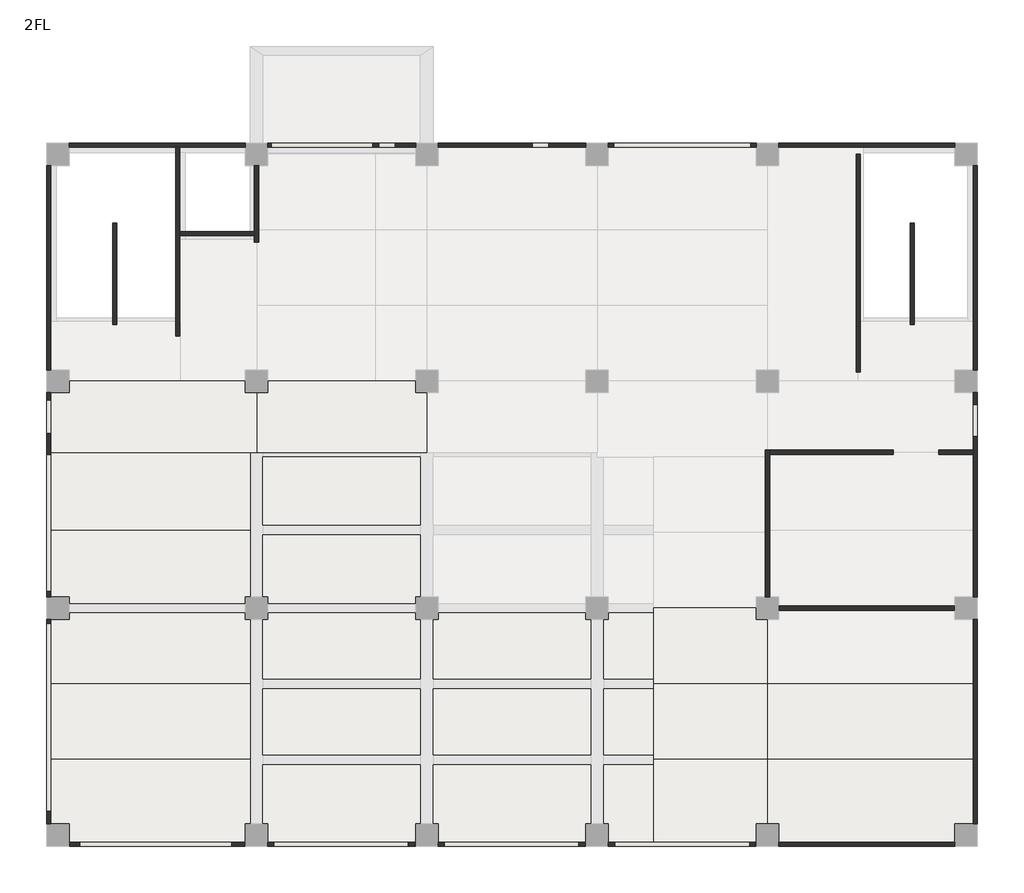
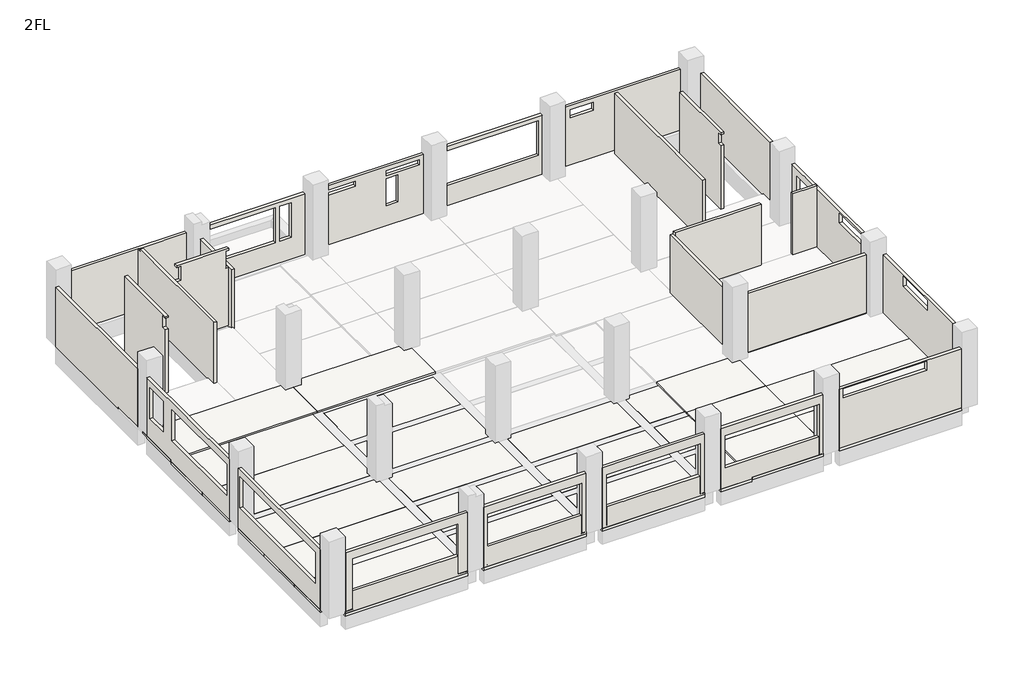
# One storey, part 1 of 4: 26 walls, 23 slabs.
"""IFC4 building model written with IfcOpenShell, lengths in millimetres."""

from ifc_helpers import new_model, si_unit, frame, origin, place, context, project, spatial, polyline, outline, extrude, faceted_brep, element, save

model = new_model("IFC4")

# Units and contexts
model_context = context("Model", 3, world=origin())
ifc_project = project(units=[si_unit("LENGTHUNIT", "METRE", prefix="MILLI")], contexts=[model_context])

# Site, building, storey
site = spatial("IfcSite", under=ifc_project)
building = spatial("IfcBuilding", under=site)
storey = spatial("IfcBuildingStorey", under=building, Name="2FL", Elevation=4100.0)

# Slabs
placement = place(None, origin())
element("IfcSlab", 1, ObjectType="S1", at=placement, inside=storey, context=model_context, shape_type="Brep", body=[
    faceted_brep([(25000.0, 2664.0, 3940.0), (32400.0, 2664.0, 3940.0), (32400.0, 400.0, 3940.0), (32050.0, 400.0, 3940.0), (31600.0, 400.0, 3940.0), (31600.0, -50.0, 3940.0), (31600.0, -400.0, 3940.0), (25400.0, -400.0, 3940.0), (25400.0, -50.0, 3940.0), (25400.0, 400.0, 3940.0), (25000.0, 400.0, 3940.0), (25000.0, 2485.0, 3940.0), (32400.0, 2664.0, 4090.0), (25000.0, 2664.0, 4090.0), (25000.0, 400.0, 4090.0), (25400.0, 400.0, 4090.0), (25400.0, -250.0, 4090.0), (25400.0, -400.0, 4090.0), (31600.0, -400.0, 4090.0), (31600.0, -250.0, 4090.0), (31600.0, 400.0, 4090.0), (32250.0, 400.0, 4090.0), (32400.0, 400.0, 4090.0), (25400.0, -400.0, 4000.0), (31600.0, -400.0, 4000.0), (32400.0, 400.0, 4000.0), (25400.0, 400.0, 4000.0), (31600.0, 400.0, 4000.0)], [[[0, 1, 2, 3, 4, 5, 6, 7, 8, 9, 10, 11]], [[12, 13, 14, 15, 16, 17, 18, 19, 20, 21, 22]], [[17, 23, 7, 6, 24, 18]], [[13, 0, 11, 10, 14]], [[1, 0, 13, 12]], [[1, 12, 22, 25, 2]], [[9, 8, 7, 23, 17, 16, 15, 26]], [[10, 9, 26, 15, 14]], [[20, 19, 18, 24, 6, 5, 4, 27]], [[20, 27, 4, 3, 2, 25, 22, 21]]]),
])
element("IfcSlab", 2, ObjectType="S1", at=placement, inside=storey, context=model_context, shape_type="Brep", body=[
    faceted_brep([(32400.0, 5328.0, 3940.0), (32400.0, 2664.0, 3940.0), (25000.0, 2664.0, 3940.0), (25000.0, 2835.0, 3940.0), (25000.0, 5155.0, 3940.0), (25000.0, 5328.0, 3940.0), (32400.0, 5328.0, 4090.0), (25000.0, 5328.0, 4090.0), (25000.0, 2667.0, 4090.0), (25000.0, 2664.0, 4090.0), (32400.0, 2664.0, 4090.0)], [[[0, 1, 2, 3, 4, 5]], [[6, 7, 8, 9, 10]], [[1, 0, 6, 10]], [[2, 1, 10, 9]], [[5, 4, 3, 2, 9, 8, 7]], [[0, 5, 7, 6]]]),
])
element("IfcSlab", 3, ObjectType="S1", at=placement, inside=storey, context=model_context, shape_type="Brep", body=[
    faceted_brep([(20998.0, -400.0, 3850.0), (19400.0, -400.0, 3850.0), (19400.0, -50.0, 3850.0), (19400.0, 400.0, 3850.0), (19225.0, 400.0, 3850.0), (19225.0, 2485.0, 3850.0), (20998.0, 2485.0, 3850.0), (20998.0, -50.0, 3850.0), (19400.0, -400.0, 4000.0), (20998.0, -400.0, 4000.0), (20998.0, -250.0, 4000.0), (20998.0, 2485.0, 4000.0), (19225.0, 2485.0, 4000.0), (19225.0, 400.0, 4000.0), (19400.0, 400.0, 4000.0), (19400.0, -250.0, 4000.0), (20998.0, -400.0, 3940.0), (20998.0, 2485.0, 3940.0)], [[[0, 1, 2, 3, 4, 5, 6, 7]], [[8, 9, 10, 11, 12, 13, 14, 15]], [[0, 16, 9, 8, 1]], [[9, 16, 0, 7, 6, 17, 11, 10]], [[14, 3, 2, 1, 8, 15]], [[3, 14, 13, 4]], [[4, 13, 12, 5]], [[6, 5, 12, 11, 17]]]),
])
element("IfcSlab", 4, ObjectType="S1", at=placement, inside=storey, context=model_context, shape_type="Brep", body=[
    faceted_brep([(24600.0, -400.0, 3940.0), (20998.0, -400.0, 3940.0), (20998.0, -50.0, 3940.0), (20998.0, 2485.0, 3940.0), (25000.0, 2485.0, 3940.0), (25000.0, 400.0, 3940.0), (24600.0, 400.0, 3940.0), (24600.0, -50.0, 3940.0), (20998.0, 2667.0, 4090.0), (20998.0, -250.0, 4090.0), (20998.0, -400.0, 4090.0), (24600.0, -400.0, 4090.0), (24600.0, -250.0, 4090.0), (24600.0, 400.0, 4090.0), (25000.0, 400.0, 4090.0), (25000.0, 2664.0, 4090.0), (25000.0, 2667.0, 4090.0), (20998.0, -400.0, 4000.0), (24600.0, -400.0, 4000.0), (20998.0, 2667.0, 4000.0), (20998.0, 2485.0, 4000.0), (25000.0, 2667.0, 4000.0), (25000.0, 2485.0, 4000.0), (24600.0, 400.0, 4000.0), (24775.0, 2485.0, 4000.0)], [[[0, 1, 2, 3, 4, 5, 6, 7]], [[8, 9, 10, 11, 12, 13, 14, 15, 16]], [[10, 17, 1, 0, 18, 11]], [[10, 9, 8, 19, 20, 3, 2, 1, 17]], [[8, 16, 21, 19]], [[16, 15, 14, 5, 4, 22, 21]], [[0, 7, 6, 23, 13, 12, 11, 18]], [[6, 5, 14, 13, 23]], [[20, 24, 22, 4, 3]], [[22, 24, 20, 19, 21]]]),
])
element("IfcSlab", 5, ObjectType="S1", at=placement, inside=storey, context=model_context, shape_type="Brep", body=[
    faceted_brep([(20998.0, 2835.0, 3850.0), (19225.0, 2835.0, 3850.0), (19225.0, 5155.0, 3850.0), (20998.0, 5155.0, 3850.0), (19225.0, 2835.0, 4000.0), (20998.0, 2835.0, 4000.0), (20998.0, 5155.0, 4000.0), (19225.0, 5155.0, 4000.0), (20998.0, 2835.0, 3940.0), (20998.0, 5155.0, 3940.0)], [[[0, 1, 2, 3]], [[4, 5, 6, 7]], [[5, 8, 0, 3, 9, 6]], [[1, 4, 7, 2]], [[1, 0, 8, 5, 4]], [[3, 2, 7, 6, 9]]]),
])
element("IfcSlab", 6, ObjectType="S1", at=placement, inside=storey, context=model_context, shape_type="Brep", body=[
    faceted_brep([(25000.0, 2835.0, 3940.0), (20998.0, 2835.0, 3940.0), (20998.0, 5155.0, 3940.0), (25000.0, 5155.0, 3940.0), (25000.0, 2667.0, 4090.0), (25000.0, 5328.0, 4090.0), (25000.0, 5333.0, 4090.0), (20998.0, 5333.0, 4090.0), (20998.0, 2667.0, 4090.0), (25000.0, 2667.0, 4000.0), (25000.0, 2835.0, 4000.0), (25000.0, 5155.0, 4000.0), (25000.0, 5333.0, 4000.0), (20998.0, 2667.0, 4000.0), (20998.0, 5333.0, 4000.0), (20998.0, 5155.0, 4000.0), (20998.0, 2835.0, 4000.0), (24775.0, 2835.0, 4000.0), (24775.0, 5155.0, 4000.0)], [[[0, 1, 2, 3]], [[4, 5, 6, 7, 8]], [[6, 5, 4, 9, 10, 0, 3, 11, 12]], [[4, 8, 13, 9]], [[8, 7, 14, 15, 2, 1, 16, 13]], [[7, 6, 12, 14]], [[1, 0, 10, 17, 16]], [[15, 18, 11, 3, 2]], [[10, 9, 13, 16, 17]], [[11, 18, 15, 14, 12]]]),
])
element("IfcSlab", 7, ObjectType="S1", at=placement, inside=storey, context=model_context, shape_type="Brep", body=[
    faceted_brep([(19400.0, 7600.0, 3850.0), (19400.0, 7825.0, 3850.0), (20998.0, 7825.0, 3850.0), (20998.0, 5505.0, 3850.0), (19225.0, 5505.0, 3850.0), (19225.0, 7600.0, 3850.0), (19400.0, 7825.0, 4000.0), (19400.0, 7600.0, 4000.0), (19225.0, 7600.0, 4000.0), (19225.0, 5505.0, 4000.0), (20998.0, 5505.0, 4000.0), (20998.0, 7825.0, 4000.0), (20998.0, 7825.0, 3940.0), (20998.0, 5505.0, 3940.0)], [[[0, 1, 2, 3, 4, 5]], [[6, 7, 8, 9, 10, 11]], [[2, 12, 11, 10, 13, 3]], [[0, 7, 6, 1]], [[7, 0, 5, 8]], [[2, 1, 6, 11, 12]], [[8, 5, 4, 9]], [[4, 3, 13, 10, 9]]]),
])
element("IfcSlab", 8, ObjectType="S1", at=placement, inside=storey, context=model_context, shape_type="Brep", body=[
    faceted_brep([(20998.0, 8000.0, 3940.0), (24600.0, 8000.0, 3940.0), (24600.0, 7825.0, 3940.0), (24600.0, 7600.0, 3940.0), (24775.0, 7600.0, 3940.0), (25000.0, 7600.0, 3940.0), (25000.0, 5505.0, 3940.0), (20998.0, 5505.0, 3940.0), (20998.0, 7825.0, 3940.0), (20998.0, 5333.0, 4090.0), (25000.0, 5333.0, 4090.0), (25000.0, 7600.0, 4090.0), (24600.0, 7600.0, 4090.0), (24600.0, 8000.0, 4090.0), (20998.0, 8000.0, 4090.0), (25000.0, 5333.0, 4000.0), (25000.0, 5505.0, 4000.0), (20998.0, 5333.0, 4000.0), (20998.0, 5505.0, 4000.0), (24600.0, 7600.0, 4000.0), (24775.0, 5505.0, 4000.0)], [[[0, 1, 2, 3, 4, 5, 6, 7, 8]], [[9, 10, 11, 12, 13, 14]], [[11, 10, 15, 16, 6, 5]], [[10, 9, 17, 15]], [[9, 14, 0, 8, 7, 18, 17]], [[0, 14, 13, 1]], [[5, 4, 3, 19, 12, 11]], [[3, 2, 1, 13, 12, 19]], [[16, 20, 18, 7, 6]], [[18, 20, 16, 15, 17]]]),
])
element("IfcSlab", 9, ObjectType="S2", at=placement, inside=storey, context=model_context, shape_type="Brep", body=[
    faceted_brep([(400.0, -400.0, 3850.0), (400.0, -50.0, 3850.0), (400.0, 400.0, 3850.0), (-50.0, 400.0, 3850.0), (-400.0, 400.0, 3850.0), (-400.0, 2664.0, 3850.0), (6775.0, 2664.0, 3850.0), (6775.0, 2485.0, 3850.0), (6775.0, 400.0, 3850.0), (6600.0, 400.0, 3850.0), (6600.0, -50.0, 3850.0), (6600.0, -400.0, 3850.0), (400.0, 400.0, 4000.0), (400.0, -250.0, 4000.0), (400.0, -400.0, 4000.0), (6600.0, -400.0, 4000.0), (6600.0, -250.0, 4000.0), (6600.0, 400.0, 4000.0), (6775.0, 400.0, 4000.0), (6775.0, 2664.0, 4000.0), (-400.0, 2664.0, 4000.0), (-400.0, 400.0, 4000.0), (-250.0, 400.0, 4000.0)], [[[0, 1, 2, 3, 4, 5, 6, 7, 8, 9, 10, 11]], [[12, 13, 14, 15, 16, 17, 18, 19, 20, 21, 22]], [[14, 0, 11, 15]], [[20, 5, 4, 21]], [[5, 20, 19, 6]], [[12, 2, 1, 0, 14, 13]], [[2, 12, 22, 21, 4, 3]], [[9, 17, 16, 15, 11, 10]], [[17, 9, 8, 18]], [[8, 7, 6, 19, 18]]]),
])
element("IfcSlab", 10, ObjectType="S2", at=placement, inside=storey, context=model_context, shape_type="Brep", body=[
    faceted_brep([(-400.0, 2664.0, 3850.0), (-400.0, 5328.0, 3850.0), (6775.0, 5328.0, 3850.0), (6775.0, 5155.0, 3850.0), (6775.0, 2835.0, 3850.0), (6775.0, 2664.0, 3850.0), (-400.0, 5328.0, 4000.0), (-400.0, 2664.0, 4000.0), (6775.0, 2664.0, 4000.0), (6775.0, 5328.0, 4000.0)], [[[0, 1, 2, 3, 4, 5]], [[6, 7, 8, 9]], [[7, 0, 5, 8]], [[1, 0, 7, 6]], [[1, 6, 9, 2]], [[5, 4, 3, 2, 9, 8]]]),
])
element("IfcSlab", 11, ObjectType="S2", at=placement, inside=storey, context=model_context, shape_type="Brep", body=[
    faceted_brep([(-400.0, 7600.0, 3850.0), (-50.0, 7600.0, 3850.0), (400.0, 7600.0, 3850.0), (400.0, 7825.0, 3850.0), (6600.0, 7825.0, 3850.0), (6600.0, 7600.0, 3850.0), (6775.0, 7600.0, 3850.0), (6775.0, 5505.0, 3850.0), (6775.0, 5328.0, 3850.0), (-400.0, 5328.0, 3850.0), (400.0, 7600.0, 4000.0), (-250.0, 7600.0, 4000.0), (-400.0, 7600.0, 4000.0), (-400.0, 5328.0, 4000.0), (6775.0, 5328.0, 4000.0), (6775.0, 7600.0, 4000.0), (6600.0, 7600.0, 4000.0), (6600.0, 7825.0, 4000.0), (400.0, 7825.0, 4000.0)], [[[0, 1, 2, 3, 4, 5, 6, 7, 8, 9]], [[10, 11, 12, 13, 14, 15, 16, 17, 18]], [[13, 9, 8, 14]], [[9, 13, 12, 0]], [[2, 10, 18, 3]], [[10, 2, 1, 0, 12, 11]], [[5, 16, 15, 6]], [[16, 5, 4, 17]], [[4, 3, 18, 17]], [[8, 7, 6, 15, 14]]]),
])
element("IfcSlab", 12, ObjectType="S2", at=placement, inside=storey, context=model_context, shape_type="Brep", body=[
    faceted_brep([(7400.0, -400.0, 3850.0), (7400.0, -50.0, 3850.0), (7400.0, 400.0, 3850.0), (7225.0, 400.0, 3850.0), (7225.0, 2485.0, 3850.0), (12775.0, 2485.0, 3850.0), (12775.0, 400.0, 3850.0), (12600.0, 400.0, 3850.0), (12600.0, -50.0, 3850.0), (12600.0, -400.0, 3850.0), (7400.0, 400.0, 4000.0), (7400.0, -400.0, 4000.0), (12600.0, -400.0, 4000.0), (12600.0, 400.0, 4000.0), (12775.0, 400.0, 4000.0), (12775.0, 2485.0, 4000.0), (7225.0, 2485.0, 4000.0), (7225.0, 400.0, 4000.0)], [[[0, 1, 2, 3, 4, 5, 6, 7, 8, 9]], [[10, 11, 12, 13, 14, 15, 16, 17]], [[11, 0, 9, 12]], [[10, 2, 1, 0, 11]], [[2, 10, 17, 3]], [[7, 13, 12, 9, 8]], [[13, 7, 6, 14]], [[3, 17, 16, 4]], [[14, 6, 5, 15]], [[5, 4, 16, 15]]]),
])
element("IfcSlab", 13, ObjectType="S2", at=placement, inside=storey, context=model_context, shape_type="SweptSolid", body=[
    extrude(outline(polyline([(12775.0, 2835.0), (7225.0, 2835.0), (7225.0, 5155.0), (12775.0, 5155.0), (12775.0, 2835.0)])), frame((0.0, 0.0, 3850.0), z_axis=(0.0, 0.0, 1.0), x_axis=(1.0, 0.0, 0.0)), (0.0, 0.0, 1.0), 150.0),
])
element("IfcSlab", 14, ObjectType="S2", at=placement, inside=storey, context=model_context, shape_type="SweptSolid", body=[
    extrude(outline(polyline([(7400.0, 7600.0), (7400.0, 7825.0), (12600.0, 7825.0), (12600.0, 7600.0), (12775.0, 7600.0), (12775.0, 5505.0), (7225.0, 5505.0), (7225.0, 7600.0), (7400.0, 7600.0)])), frame((0.0, 0.0, 3850.0), z_axis=(0.0, 0.0, 1.0), x_axis=(1.0, 0.0, 0.0)), (0.0, 0.0, 1.0), 150.0),
])
element("IfcSlab", 15, ObjectType="S2", at=placement, inside=storey, context=model_context, shape_type="Brep", body=[
    faceted_brep([(13400.0, -400.0, 3850.0), (13400.0, -50.0, 3850.0), (13400.0, 400.0, 3850.0), (13225.0, 400.0, 3850.0), (13225.0, 2485.0, 3850.0), (18775.0, 2485.0, 3850.0), (18775.0, 400.0, 3850.0), (18600.0, 400.0, 3850.0), (18600.0, -50.0, 3850.0), (18600.0, -400.0, 3850.0), (13400.0, 400.0, 4000.0), (13400.0, -250.0, 4000.0), (13400.0, -400.0, 4000.0), (18600.0, -400.0, 4000.0), (18600.0, -250.0, 4000.0), (18600.0, 400.0, 4000.0), (18775.0, 400.0, 4000.0), (18775.0, 2485.0, 4000.0), (13225.0, 2485.0, 4000.0), (13225.0, 400.0, 4000.0)], [[[0, 1, 2, 3, 4, 5, 6, 7, 8, 9]], [[10, 11, 12, 13, 14, 15, 16, 17, 18, 19]], [[12, 0, 9, 13]], [[10, 2, 1, 0, 12, 11]], [[2, 10, 19, 3]], [[7, 15, 14, 13, 9, 8]], [[15, 7, 6, 16]], [[3, 19, 18, 4]], [[16, 6, 5, 17]], [[5, 4, 18, 17]]]),
])
element("IfcSlab", 16, ObjectType="S2", at=placement, inside=storey, context=model_context, shape_type="SweptSolid", body=[
    extrude(outline(polyline([(18775.0, 2835.0), (13225.0, 2835.0), (13225.0, 5155.0), (18775.0, 5155.0), (18775.0, 2835.0)])), frame((0.0, 0.0, 3850.0), z_axis=(0.0, 0.0, 1.0), x_axis=(1.0, 0.0, 0.0)), (0.0, 0.0, 1.0), 150.0),
])
element("IfcSlab", 17, ObjectType="S2", at=placement, inside=storey, context=model_context, shape_type="SweptSolid", body=[
    extrude(outline(polyline([(13400.0, 7600.0), (13400.0, 7825.0), (18600.0, 7825.0), (18600.0, 7600.0), (18775.0, 7600.0), (18775.0, 5505.0), (13225.0, 5505.0), (13225.0, 7600.0), (13400.0, 7600.0)])), frame((0.0, 0.0, 3850.0), z_axis=(0.0, 0.0, 1.0), x_axis=(1.0, 0.0, 0.0)), (0.0, 0.0, 1.0), 150.0),
])
element("IfcSlab", 18, ObjectType="S2", at=placement, inside=storey, context=model_context, shape_type="Brep", body=[
    faceted_brep([(7000.0, 13496.0, 3940.0), (6775.0, 13496.0, 3940.0), (-50.0, 13496.0, 3940.0), (-400.0, 13496.0, 3940.0), (-400.0, 15600.0, 3940.0), (-50.0, 15600.0, 3940.0), (400.0, 15600.0, 3940.0), (400.0, 16000.0, 3940.0), (4319.0, 16000.0, 3940.0), (6600.0, 16000.0, 3940.0), (6600.0, 15825.0, 3940.0), (6600.0, 15600.0, 3940.0), (6775.0, 15600.0, 3940.0), (7000.0, 15600.0, 3940.0), (-400.0, 13496.0, 4090.0), (-250.0, 13496.0, 4090.0), (7000.0, 13496.0, 4090.0), (7000.0, 15600.0, 4090.0), (6600.0, 15600.0, 4090.0), (6600.0, 16000.0, 4090.0), (4319.0, 16000.0, 4090.0), (-400.0, 16000.0, 4090.0), (-400.0, 15600.0, 4090.0), (7000.0, 13496.0, 4000.0), (7000.0, 15600.0, 4000.0), (-400.0, 13496.0, 4000.0), (-400.0, 16000.0, 4000.0), (-400.0, 15600.0, 4000.0), (400.0, 16000.0, 4000.0), (400.0, 15600.0, 4000.0), (6600.0, 15600.0, 4000.0)], [[[0, 1, 2, 3, 4, 5, 6, 7, 8, 9, 10, 11, 12, 13]], [[14, 15, 16, 17, 18, 19, 20, 21, 22]], [[16, 23, 0, 13, 24, 17]], [[3, 2, 1, 0, 23, 16, 15, 14, 25]], [[14, 22, 21, 26, 27, 4, 3, 25]], [[7, 28, 26, 21, 20, 19, 9, 8]], [[6, 29, 28, 7]], [[27, 29, 6, 5, 4]], [[29, 27, 26, 28]], [[18, 17, 24, 13, 12, 11, 30]], [[18, 30, 11, 10, 9, 19]]]),
])
element("IfcSlab", 19, ObjectType="S2", at=placement, inside=storey, context=model_context, shape_type="Brep", body=[
    faceted_brep([(7400.0, 15600.0, 3940.0), (7400.0, 16000.0, 3940.0), (11200.0, 16000.0, 3940.0), (12600.0, 16000.0, 3940.0), (12600.0, 15825.0, 3940.0), (12600.0, 15600.0, 3940.0), (12775.0, 15600.0, 3940.0), (12775.0, 13675.0, 3940.0), (7225.0, 13675.0, 3940.0), (7225.0, 15600.0, 3940.0), (7000.0, 13496.0, 4090.0), (13000.0, 13496.0, 4090.0), (13000.0, 15600.0, 4090.0), (12600.0, 15600.0, 4090.0), (12600.0, 16000.0, 4090.0), (11200.0, 16000.0, 4090.0), (7400.0, 16000.0, 4090.0), (7400.0, 15600.0, 4090.0), (7000.0, 15600.0, 4090.0), (13000.0, 13496.0, 4000.0), (13000.0, 15600.0, 4000.0), (7000.0, 13496.0, 4000.0), (7000.0, 15600.0, 4000.0), (7400.0, 16000.0, 4000.0), (12600.0, 16000.0, 4000.0), (7400.0, 15600.0, 4000.0), (7225.0, 15600.0, 4000.0), (12775.0, 15600.0, 4000.0), (12600.0, 15600.0, 4000.0), (12775.0, 13675.0, 4000.0), (7225.0, 13675.0, 4000.0)], [[[0, 1, 2, 3, 4, 5, 6, 7, 8, 9]], [[10, 11, 12, 13, 14, 15, 16, 17, 18]], [[12, 11, 19, 20]], [[11, 10, 21, 19]], [[10, 18, 22, 21]], [[1, 23, 16, 15, 14, 24, 3, 2]], [[1, 0, 25, 17, 16, 23]], [[18, 17, 25, 0, 9, 26, 22]], [[13, 12, 20, 27, 6, 5, 28]], [[5, 4, 3, 24, 14, 13, 28]], [[7, 29, 30, 8]], [[22, 26, 30, 29, 27, 20, 19, 21]], [[27, 29, 7, 6]], [[30, 26, 9, 8]]]),
])
element("IfcSlab", 20, ObjectType="S2", at=placement, inside=storey, context=model_context, shape_type="Brep", body=[
    faceted_brep([(400.0, 8400.0, 3850.0), (-50.0, 8400.0, 3850.0), (-400.0, 8400.0, 3850.0), (-400.0, 10748.0, 3850.0), (6775.0, 10748.0, 3850.0), (6775.0, 10575.0, 3850.0), (6775.0, 8400.0, 3850.0), (6600.0, 8400.0, 3850.0), (6600.0, 8175.0, 3850.0), (400.0, 8175.0, 3850.0), (-400.0, 8400.0, 4000.0), (-250.0, 8400.0, 4000.0), (400.0, 8400.0, 4000.0), (400.0, 8175.0, 4000.0), (6600.0, 8175.0, 4000.0), (6600.0, 8400.0, 4000.0), (6775.0, 8400.0, 4000.0), (6775.0, 10748.0, 4000.0), (-400.0, 10748.0, 4000.0)], [[[0, 1, 2, 3, 4, 5, 6, 7, 8, 9]], [[10, 11, 12, 13, 14, 15, 16, 17, 18]], [[18, 3, 2, 10]], [[3, 18, 17, 4]], [[12, 0, 9, 13]], [[0, 12, 11, 10, 2, 1]], [[7, 15, 14, 8]], [[15, 7, 6, 16]], [[9, 8, 14, 13]], [[6, 5, 4, 17, 16]]]),
])
element("IfcSlab", 21, ObjectType="S2", at=placement, inside=storey, context=model_context, shape_type="Brep", body=[
    faceted_brep([(-400.0, 10748.0, 3850.0), (-400.0, 13496.0, 3850.0), (-50.0, 13496.0, 3850.0), (6775.0, 13496.0, 3850.0), (6775.0, 13325.0, 3850.0), (6775.0, 10925.0, 3850.0), (6775.0, 10748.0, 3850.0), (-400.0, 13496.0, 4000.0), (-400.0, 10748.0, 4000.0), (6775.0, 10748.0, 4000.0), (6775.0, 13496.0, 4000.0), (-250.0, 13496.0, 4000.0), (-400.0, 13496.0, 3940.0), (6775.0, 13496.0, 3940.0)], [[[0, 1, 2, 3, 4, 5, 6]], [[7, 8, 9, 10, 11]], [[8, 0, 6, 9]], [[1, 0, 8, 7, 12]], [[1, 12, 7, 11, 10, 13, 3, 2]], [[6, 5, 4, 3, 13, 10, 9]]]),
])
element("IfcSlab", 22, ObjectType="S2", at=placement, inside=storey, context=model_context, shape_type="SweptSolid", body=[
    extrude(outline(polyline([(12600.0, 8400.0), (12600.0, 8175.0), (7400.0, 8175.0), (7400.0, 8400.0), (7225.0, 8400.0), (7225.0, 10575.0), (12775.0, 10575.0), (12775.0, 8400.0), (12600.0, 8400.0)])), frame((0.0, 0.0, 3850.0), z_axis=(0.0, 0.0, 1.0), x_axis=(1.0, 0.0, 0.0)), (0.0, 0.0, 1.0), 150.0),
])
element("IfcSlab", 23, ObjectType="S2", at=placement, inside=storey, context=model_context, shape_type="SweptSolid", body=[
    extrude(outline(polyline([(7225.0, 13325.0), (12775.0, 13325.0), (12775.0, 10925.0), (7225.0, 10925.0), (7225.0, 13325.0)])), frame((0.0, 0.0, 3850.0), z_axis=(0.0, 0.0, 1.0), x_axis=(1.0, 0.0, 0.0)), (0.0, 0.0, 1.0), 150.0),
])

# Walls
element("IfcWall", 24, ObjectType="EW15", at=placement, inside=storey, context=model_context, shape_type="SweptSolid", body=[
    extrude(outline(polyline([(4090.0, 28374.0), (4000.0, 28374.0), (4000.0, 31600.0), (7250.0, 31600.0), (7250.0, 25400.0), (4090.0, 25400.0), (4090.0, 28374.0)]), holes=[polyline([(7035.0, 26010.0), (7035.0, 27190.0), (6615.0, 27190.0), (6615.0, 26010.0), (7035.0, 26010.0)])]), frame((0.0, 24250.0, 0.0), z_axis=(0.0, 1.0, 0.0), x_axis=(0.0, 0.0, 1.0)), (0.0, 0.0, 1.0), 150.0),
])
element("IfcWall", 25, ObjectType="EW15", at=placement, inside=storey, context=model_context, shape_type="SweptSolid", body=[
    extrude(outline(polyline([(18100.0, 4000.0), (18100.0, 4090.0), (16400.0, 4090.0), (16400.0, 7200.0), (23600.0, 7200.0), (23600.0, 4000.0), (18100.0, 4000.0)])), frame((-400.0, 0.0, 0.0), z_axis=(1.0, 0.0, 0.0), x_axis=(0.0, 1.0, 0.0)), (0.0, 0.0, 1.0), 150.0),
])
element("IfcWall", 26, ObjectType="EW15", at=placement, inside=storey, context=model_context, shape_type="Brep", body=[
    faceted_brep([(32250.0, 400.0, 7200.0), (32250.0, 7600.0, 7200.0), (32250.0, 7600.0, 4090.0), (32250.0, 400.0, 4090.0), (32250.0, 3740.0, 6575.0), (32250.0, 5860.0, 6575.0), (32250.0, 5860.0, 7100.0), (32250.0, 3740.0, 7100.0), (32400.0, 7600.0, 7200.0), (32400.0, 400.0, 7200.0), (32400.0, 400.0, 4090.0), (32400.0, 2664.0, 4090.0), (32400.0, 5328.0, 4090.0), (32400.0, 7600.0, 4090.0), (32400.0, 5860.0, 6575.0), (32400.0, 3740.0, 6575.0), (32400.0, 3740.0, 7100.0), (32400.0, 5860.0, 7100.0)], [[[0, 1, 2, 3], [4, 5, 6, 7]], [[8, 9, 10, 11, 12, 13], [14, 15, 16, 17]], [[9, 0, 3, 10]], [[1, 0, 9, 8]], [[1, 8, 13, 2]], [[2, 13, 12, 11, 10, 3]], [[4, 15, 14, 5]], [[5, 14, 17, 6]], [[15, 4, 7, 16]], [[6, 17, 16, 7]]]),
])
element("IfcWall", 27, ObjectType="EW15", at=placement, inside=storey, context=model_context, shape_type="Brep", body=[
    faceted_brep([(32250.0, 8400.0, 7200.0), (32250.0, 13425.0, 7200.0), (32250.0, 13575.0, 7200.0), (32250.0, 15600.0, 7200.0), (32250.0, 15600.0, 4090.0), (32250.0, 13575.0, 4090.0), (32250.0, 13425.0, 4090.0), (32250.0, 8400.0, 4090.0), (32250.0, 15177.5, 6795.0), (32250.0, 14057.5, 6795.0), (32250.0, 14057.5, 5075.0), (32250.0, 15177.5, 5075.0), (32250.0, 11440.0, 7100.0), (32250.0, 8920.0, 7100.0), (32250.0, 8920.0, 6575.0), (32250.0, 11440.0, 6575.0), (32400.0, 15600.0, 7200.0), (32400.0, 8400.0, 7200.0), (32400.0, 8400.0, 4090.0), (32400.0, 10748.0, 4090.0), (32400.0, 13496.0, 4090.0), (32400.0, 15600.0, 4090.0), (32400.0, 14057.5, 6795.0), (32400.0, 15177.5, 6795.0), (32400.0, 15177.5, 5075.0), (32400.0, 14057.5, 5075.0), (32400.0, 8920.0, 7100.0), (32400.0, 11440.0, 7100.0), (32400.0, 11440.0, 6575.0), (32400.0, 8920.0, 6575.0)], [[[0, 1, 2, 3, 4, 5, 6, 7], [8, 9, 10, 11], [12, 13, 14, 15]], [[16, 17, 18, 19, 20, 21], [22, 23, 24, 25], [26, 27, 28, 29]], [[17, 0, 7, 18]], [[3, 2, 1, 0, 17, 16]], [[3, 16, 21, 4]], [[4, 21, 20, 19, 18, 7, 6, 5]], [[8, 23, 22, 9]], [[10, 25, 24, 11]], [[23, 8, 11, 24]], [[9, 22, 25, 10]], [[12, 27, 26, 13]], [[14, 29, 28, 15]], [[27, 12, 15, 28]], [[13, 26, 29, 14]]]),
])
element("IfcWall", 28, ObjectType="EW15", at=placement, inside=storey, context=model_context, shape_type="SweptSolid", body=[
    extrude(outline(polyline([(16400.0, 7200.0), (23600.0, 7200.0), (23600.0, 4000.0), (18100.0, 4000.0), (18100.0, 4090.0), (16400.0, 4090.0), (16400.0, 7200.0)])), frame((32250.0, 0.0, 0.0), z_axis=(1.0, 0.0, 0.0), x_axis=(0.0, 1.0, 0.0)), (0.0, 0.0, 1.0), 150.0),
])
element("IfcWall", 29, ObjectType="EW15", at=placement, inside=storey, context=model_context, shape_type="Brep", body=[
    faceted_brep([(400.0, 24400.0, 4000.0), (400.0, 24400.0, 7250.0), (6600.0, 24400.0, 7250.0), (6600.0, 24400.0, 4000.0), (400.0, 24250.0, 7250.0), (400.0, 24250.0, 4000.0), (4144.0, 24250.0, 4000.0), (4294.0, 24250.0, 4000.0), (6600.0, 24250.0, 4000.0), (6600.0, 24250.0, 7250.0), (4294.0, 24250.0, 7250.0), (4144.0, 24250.0, 7250.0)], [[[0, 1, 2, 3]], [[4, 5, 6, 7, 8, 9, 10, 11]], [[5, 0, 3, 8, 7, 6]], [[1, 4, 11, 10, 9, 2]], [[1, 0, 5, 4]], [[3, 2, 9, 8]]]),
])
element("IfcWall", 30, ObjectType="W15", at=placement, inside=storey, context=model_context, shape_type="SweptSolid", body=[
    extrude(outline(polyline([(4100.0, 400.0), (4000.0, 400.0), (4000.0, 6600.0), (4100.0, 6600.0), (4100.0, 6102.5), (5075.0, 6102.5), (5075.0, 787.5), (4100.0, 787.5), (4100.0, 400.0)])), frame((0.0, -400.0, 0.0), z_axis=(0.0, 1.0, 0.0), x_axis=(0.0, 0.0, 1.0)), (0.0, 0.0, 1.0), 150.0),
    extrude(outline(polyline([(4125.0, 6575.0), (7250.0, 6575.0), (7250.0, 425.0), (4125.0, 425.0), (4125.0, 762.5), (6795.0, 762.5), (6795.0, 6127.5), (4125.0, 6127.5), (4125.0, 6575.0)])), frame((0.0, -400.0, 0.0), z_axis=(0.0, 1.0, 0.0), x_axis=(0.0, 0.0, 1.0)), (0.0, 0.0, 1.0), 150.0),
])
element("IfcWall", 31, ObjectType="W15", at=placement, inside=storey, context=model_context, shape_type="SweptSolid", body=[
    extrude(outline(polyline([(4000.0, 7400.0), (4000.0, 12600.0), (4100.0, 12600.0), (4100.0, 12335.0), (5075.0, 12335.0), (5075.0, 7625.0), (4100.0, 7625.0), (4100.0, 7600.0), (6795.0, 7600.0), (6795.0, 12360.0), (4125.0, 12360.0), (4125.0, 12575.0), (7250.0, 12575.0), (7250.0, 7400.0), (4000.0, 7400.0)])), frame((0.0, -400.0, 0.0), z_axis=(0.0, 1.0, 0.0), x_axis=(0.0, 0.0, 1.0)), (0.0, 0.0, 1.0), 150.0),
])
element("IfcWall", 32, ObjectType="W15", at=placement, inside=storey, context=model_context, shape_type="SweptSolid", body=[
    extrude(outline(polyline([(4000.0, 13400.0), (4000.0, 18600.0), (4100.0, 18600.0), (4100.0, 18335.0), (5075.0, 18335.0), (5075.0, 13625.0), (4100.0, 13625.0), (4100.0, 13600.0), (6795.0, 13600.0), (6795.0, 18360.0), (4125.0, 18360.0), (4125.0, 18575.0), (7250.0, 18575.0), (7250.0, 13400.0), (4000.0, 13400.0)])), frame((0.0, -400.0, 0.0), z_axis=(0.0, 1.0, 0.0), x_axis=(0.0, 0.0, 1.0)), (0.0, 0.0, 1.0), 150.0),
])
element("IfcWall", 33, ObjectType="W15", at=placement, inside=storey, context=model_context, shape_type="SweptSolid", body=[
    extrude(outline(polyline([(7250.0, 19400.0), (4000.0, 19400.0), (4000.0, 20998.0), (4090.0, 20998.0), (4090.0, 24600.0), (4100.0, 24600.0), (4100.0, 24355.0), (5075.0, 24355.0), (5075.0, 19645.0), (4100.0, 19645.0), (4100.0, 19620.0), (6795.0, 19620.0), (6795.0, 24380.0), (4125.0, 24380.0), (4125.0, 24575.0), (7250.0, 24575.0), (7250.0, 19400.0)])), frame((0.0, -400.0, 0.0), z_axis=(0.0, 1.0, 0.0), x_axis=(0.0, 0.0, 1.0)), (0.0, 0.0, 1.0), 150.0),
])
element("IfcWall", 34, ObjectType="W15", at=placement, inside=storey, context=model_context, shape_type="SweptSolid", body=[
    extrude(outline(polyline([(7250.0, 31600.0), (7250.0, 25400.0), (4090.0, 25400.0), (4090.0, 31600.0), (7250.0, 31600.0)]), holes=[polyline([(7210.0, 25602.7), (7210.0, 29822.7), (6725.0, 29822.7), (6725.0, 25602.7), (7210.0, 25602.7)])]), frame((0.0, -400.0, 0.0), z_axis=(0.0, 1.0, 0.0), x_axis=(0.0, 0.0, 1.0)), (0.0, 0.0, 1.0), 150.0),
])
element("IfcWall", 35, ObjectType="W15", at=placement, inside=storey, context=model_context, shape_type="SweptSolid", body=[
    extrude(outline(polyline([(4125.0, 25425.0), (4125.0, 31575.0), (7250.0, 31575.0), (7250.0, 25400.0), (7240.0, 25400.0), (7240.0, 25425.0), (4125.0, 25425.0)])), frame((0.0, 7925.0, 0.0), z_axis=(0.0, 1.0, 0.0), x_axis=(0.0, 0.0, 1.0)), (0.0, 0.0, 1.0), 150.0),
    extrude(outline(polyline([(25425.0, 7925.0), (25425.0, 8075.0), (31600.0, 8075.0), (31600.0, 7925.0), (25425.0, 7925.0)])), frame((0.0, 0.0, 4090.0), z_axis=(0.0, 0.0, 1.0), x_axis=(1.0, 0.0, 0.0)), (0.0, 0.0, 1.0), 10.0),
])
element("IfcWall", 36, ObjectType="W15", at=placement, inside=storey, context=model_context, shape_type="SweptSolid", body=[
    extrude(outline(polyline([(7250.0, 7400.0), (4000.0, 7400.0), (4000.0, 12600.0), (7250.0, 12600.0), (7250.0, 7400.0)]), holes=[polyline([(7020.0, 7510.0), (7020.0, 11090.0), (5165.0, 11090.0), (5165.0, 7510.0), (7020.0, 7510.0)]), polyline([(7020.0, 11310.0), (7020.0, 11890.0), (5165.0, 11890.0), (5165.0, 11310.0), (7020.0, 11310.0)])]), frame((0.0, 24250.0, 0.0), z_axis=(0.0, 1.0, 0.0), x_axis=(0.0, 0.0, 1.0)), (0.0, 0.0, 1.0), 150.0),
])
element("IfcWall", 37, ObjectType="W15", at=placement, inside=storey, context=model_context, shape_type="SweptSolid", body=[
    extrude(outline(polyline([(7250.0, 13400.0), (4090.0, 13400.0), (4090.0, 18600.0), (7250.0, 18600.0), (7250.0, 13400.0)]), holes=[polyline([(7035.0, 13460.0), (7035.0, 15140.0), (6765.0, 15140.0), (6765.0, 13460.0), (7035.0, 13460.0)]), polyline([(6620.0, 16710.0), (6620.0, 17290.0), (5165.0, 17290.0), (5165.0, 16710.0), (6620.0, 16710.0)]), polyline([(7035.0, 16700.0), (7035.0, 18380.0), (6765.0, 18380.0), (6765.0, 16700.0), (7035.0, 16700.0)])]), frame((0.0, 24250.0, 0.0), z_axis=(0.0, 1.0, 0.0), x_axis=(0.0, 0.0, 1.0)), (0.0, 0.0, 1.0), 150.0),
])
element("IfcWall", 38, ObjectType="W15", at=placement, inside=storey, context=model_context, shape_type="SweptSolid", body=[
    extrude(outline(polyline([(7250.0, 19400.0), (4090.0, 19400.0), (4090.0, 24600.0), (7250.0, 24600.0), (7250.0, 19400.0)]), holes=[polyline([(7020.0, 19590.0), (7020.0, 24410.0), (5165.0, 24410.0), (5165.0, 19590.0), (7020.0, 19590.0)])]), frame((0.0, 24250.0, 0.0), z_axis=(0.0, 1.0, 0.0), x_axis=(0.0, 0.0, 1.0)), (0.0, 0.0, 1.0), 150.0),
])
element("IfcWall", 39, ObjectType="W15", at=placement, inside=storey, context=model_context, shape_type="Brep", body=[
    faceted_brep([(-400.0, 400.0, 4000.0), (-400.0, 400.0, 7200.0), (-400.0, 7600.0, 7200.0), (-400.0, 7600.0, 4000.0), (-400.0, 5328.0, 4000.0), (-400.0, 2664.0, 4000.0), (-400.0, 7465.0, 6820.0), (-400.0, 835.0, 6820.0), (-400.0, 835.0, 5165.0), (-400.0, 7465.0, 5165.0), (-250.0, 400.0, 7200.0), (-250.0, 400.0, 4000.0), (-250.0, 7600.0, 4000.0), (-250.0, 7600.0, 7200.0), (-250.0, 835.0, 6820.0), (-250.0, 7465.0, 6820.0), (-250.0, 7465.0, 5165.0), (-250.0, 835.0, 5165.0)], [[[0, 1, 2, 3, 4, 5], [6, 7, 8, 9]], [[10, 11, 12, 13], [14, 15, 16, 17]], [[11, 0, 5, 4, 3, 12]], [[1, 10, 13, 2]], [[11, 10, 1, 0]], [[3, 2, 13, 12]], [[6, 15, 14, 7]], [[8, 17, 16, 9]], [[15, 6, 9, 16]], [[7, 14, 17, 8]]]),
])
element("IfcWall", 40, ObjectType="W15", at=placement, inside=storey, context=model_context, shape_type="Brep", body=[
    faceted_brep([(-400.0, 13496.0, 4090.0), (-400.0, 13496.0, 4000.0), (-400.0, 10748.0, 4000.0), (-400.0, 8400.0, 4000.0), (-400.0, 8400.0, 7200.0), (-400.0, 15600.0, 7200.0), (-400.0, 15600.0, 4090.0), (-400.0, 13410.0, 6820.0), (-400.0, 8590.0, 6820.0), (-400.0, 8590.0, 5165.0), (-400.0, 13410.0, 5165.0), (-400.0, 15345.0, 6820.0), (-400.0, 14165.0, 6820.0), (-400.0, 14165.0, 5165.0), (-400.0, 15345.0, 5165.0), (-250.0, 13496.0, 4000.0), (-250.0, 13496.0, 4090.0), (-250.0, 15600.0, 4090.0), (-250.0, 15600.0, 7200.0), (-250.0, 8400.0, 7200.0), (-250.0, 8400.0, 4000.0), (-250.0, 8590.0, 6820.0), (-250.0, 13410.0, 6820.0), (-250.0, 13410.0, 5165.0), (-250.0, 8590.0, 5165.0), (-250.0, 14165.0, 6820.0), (-250.0, 15345.0, 6820.0), (-250.0, 15345.0, 5165.0), (-250.0, 14165.0, 5165.0)], [[[0, 1, 2, 3, 4, 5, 6], [7, 8, 9, 10], [11, 12, 13, 14]], [[15, 16, 17, 18, 19, 20], [21, 22, 23, 24], [25, 26, 27, 28]], [[1, 15, 20, 3, 2]], [[18, 5, 4, 19]], [[16, 0, 6, 17]], [[0, 16, 15, 1]], [[18, 17, 6, 5]], [[4, 3, 20, 19]], [[7, 22, 21, 8]], [[9, 24, 23, 10]], [[22, 7, 10, 23]], [[8, 21, 24, 9]], [[11, 26, 25, 12]], [[13, 28, 27, 14]], [[26, 11, 14, 27]], [[12, 25, 28, 13]]]),
])
element("IfcWall", 41, ObjectType="W15", at=placement, inside=storey, context=model_context, shape_type="Brep", body=[
    faceted_brep([(6925.0, 20905.0, 4000.0), (6925.0, 20905.0, 7200.0), (6925.0, 21125.0, 7200.0), (6925.0, 21275.0, 7200.0), (6925.0, 23600.0, 7200.0), (6925.0, 23600.0, 4000.0), (6925.0, 21275.0, 4000.0), (6925.0, 21125.0, 4000.0), (7075.0, 20905.0, 7200.0), (7075.0, 20905.0, 4000.0), (7075.0, 23600.0, 4000.0), (7075.0, 23600.0, 7200.0), (7000.0, 23600.0, 4000.0)], [[[0, 1, 2, 3, 4, 5, 6, 7]], [[8, 9, 10, 11]], [[9, 0, 7, 6, 5, 12, 10]], [[1, 0, 9, 8]], [[10, 12, 5, 4, 11]], [[4, 3, 2, 1, 8, 11]]]),
])
element("IfcWall", 42, ObjectType="W15", at=placement, inside=storey, context=model_context, shape_type="Brep", body=[
    faceted_brep([(24925.0, 13575.0, 7200.0), (24925.0, 13575.0, 4090.0), (24925.0, 8400.0, 4090.0), (24925.0, 8400.0, 7200.0), (25075.0, 13575.0, 4090.0), (25075.0, 13575.0, 7200.0), (25075.0, 8400.0, 7200.0), (25075.0, 8400.0, 4090.0), (25075.0, 13425.0, 4090.0)], [[[0, 1, 2, 3]], [[4, 5, 6, 7, 8]], [[1, 4, 8, 7, 2]], [[1, 0, 5, 4]], [[2, 7, 6, 3]], [[0, 3, 6, 5]]]),
])
element("IfcWall", 43, ObjectType="W15", at=placement, inside=storey, context=model_context, shape_type="Brep", body=[
    faceted_brep([(4294.0, 21125.0, 4100.0), (6925.0, 21125.0, 4100.0), (6925.0, 21125.0, 7200.0), (6775.0, 21125.0, 7200.0), (6775.0, 21125.0, 7500.0), (6775.0, 21125.0, 8100.0), (6925.0, 21125.0, 8100.0), (6925.0, 21125.0, 8200.0), (4294.0, 21125.0, 8200.0), (4294.0, 21125.0, 8100.0), (4494.0, 21125.0, 8100.0), (4494.0, 21125.0, 7500.0), (4494.0, 21125.0, 7350.0), (4294.0, 21125.0, 7350.0), (6925.0, 21275.0, 4100.0), (4294.0, 21275.0, 4100.0), (4294.0, 21275.0, 7350.0), (4494.0, 21275.0, 7350.0), (4494.0, 21275.0, 8100.0), (4294.0, 21275.0, 8100.0), (4294.0, 21275.0, 8200.0), (6925.0, 21275.0, 8200.0), (6925.0, 21275.0, 8100.0), (6775.0, 21275.0, 8100.0), (6775.0, 21275.0, 7200.0), (6925.0, 21275.0, 7200.0)], [[[0, 1, 2, 3, 4, 5, 6, 7, 8, 9, 10, 11, 12, 13]], [[14, 15, 16, 17, 18, 19, 20, 21, 22, 23, 24, 25]], [[1, 0, 15, 14]], [[8, 7, 21, 20]], [[5, 4, 3, 24, 23]], [[3, 2, 25, 24]], [[6, 5, 23, 22]], [[12, 17, 16, 13]], [[17, 12, 11, 10, 18]], [[18, 10, 9, 19]], [[1, 14, 25, 2]], [[21, 7, 6, 22]], [[8, 20, 19, 9]], [[15, 0, 13, 16]]]),
])
element("IfcWall", 44, ObjectType="W15", at=placement, inside=storey, context=model_context, shape_type="Brep", body=[
    faceted_brep([(4294.0, 17600.0, 4000.0), (4294.0, 21125.0, 4000.0), (4294.0, 21275.0, 4000.0), (4294.0, 24250.0, 4000.0), (4294.0, 24250.0, 7250.0), (4294.0, 24050.0, 7250.0), (4294.0, 24050.0, 7350.0), (4294.0, 21275.0, 7350.0), (4294.0, 21125.0, 7350.0), (4294.0, 17600.0, 7350.0), (4144.0, 24250.0, 4000.0), (4144.0, 24050.0, 4000.0), (4144.0, 17600.0, 4000.0), (4144.0, 17600.0, 7350.0), (4144.0, 24050.0, 7350.0), (4144.0, 24050.0, 7250.0), (4144.0, 24250.0, 7250.0)], [[[0, 1, 2, 3, 4, 5, 6, 7, 8, 9]], [[10, 11, 12, 13, 14, 15, 16]], [[3, 2, 1, 0, 12, 11, 10]], [[13, 9, 8, 7, 6, 14]], [[0, 9, 13, 12]], [[15, 5, 4, 16]], [[5, 15, 14, 6]], [[3, 10, 16, 4]]]),
])
element("IfcWall", 45, ObjectType="W15", at=placement, inside=storey, context=model_context, shape_type="SweptSolid", body=[
    extrude(outline(polyline([(28125.0, 16325.0), (28125.0, 24000.0), (28275.0, 24000.0), (28275.0, 16325.0), (28125.0, 16325.0)])), frame((0.0, 0.0, 4090.0), z_axis=(0.0, 0.0, 1.0), x_axis=(1.0, 0.0, 0.0)), (0.0, 0.0, 1.0), 3260.0),
])
element("IfcWall", 46, ObjectType="W15", at=placement, inside=storey, context=model_context, shape_type="Brep", body=[
    faceted_brep([(29435.0, 13575.0, 4090.0), (25075.0, 13575.0, 4090.0), (25075.0, 13575.0, 7200.0), (25075.0, 13575.0, 7350.0), (29435.0, 13575.0, 7350.0), (29435.0, 13425.0, 4090.0), (29435.0, 13425.0, 7350.0), (25075.0, 13425.0, 7350.0), (25075.0, 13425.0, 4090.0)], [[[0, 1, 2, 3, 4]], [[5, 6, 7, 8]], [[1, 0, 5, 8]], [[4, 3, 7, 6]], [[0, 4, 6, 5]], [[3, 2, 1, 8, 7]]]),
])
element("IfcWall", 47, ObjectType="W15", at=placement, inside=storey, context=model_context, shape_type="SweptSolid", body=[
    extrude(outline(polyline([(21580.0, 4100.0), (18000.0, 4100.0), (18000.0, 7500.0), (18225.0, 7500.0), (18225.0, 8100.0), (18000.0, 8100.0), (18000.0, 8200.0), (21580.0, 8200.0), (21580.0, 4100.0)])), frame((1925.0, 0.0, 0.0), z_axis=(1.0, 0.0, 0.0), x_axis=(0.0, 1.0, 0.0)), (0.0, 0.0, 1.0), 150.0),
])
element("IfcWall", 48, ObjectType="W15", at=placement, inside=storey, context=model_context, shape_type="SweptSolid", body=[
    extrude(outline(polyline([(21580.0, 4100.0), (18000.0, 4100.0), (18000.0, 7500.0), (18225.0, 7500.0), (18225.0, 8100.0), (18000.0, 8100.0), (18000.0, 8200.0), (21580.0, 8200.0), (21580.0, 4100.0)])), frame((30025.0, 0.0, 0.0), z_axis=(1.0, 0.0, 0.0), x_axis=(0.0, 1.0, 0.0)), (0.0, 0.0, 1.0), 150.0),
])
element("IfcWall", 49, ObjectType="W15", at=placement, inside=storey, context=model_context, shape_type="Brep", body=[
    faceted_brep([(32250.0, 13575.0, 4090.0), (31035.0, 13575.0, 4090.0), (31035.0, 13575.0, 7350.0), (32050.0, 13575.0, 7350.0), (32250.0, 13575.0, 7350.0), (32250.0, 13575.0, 7200.0), (32250.0, 13425.0, 4090.0), (32250.0, 13425.0, 7200.0), (32250.0, 13425.0, 7350.0), (32050.0, 13425.0, 7350.0), (31035.0, 13425.0, 7350.0), (31035.0, 13425.0, 4090.0)], [[[0, 1, 2, 3, 4, 5]], [[6, 7, 8, 9, 10, 11]], [[1, 0, 6, 11]], [[2, 1, 11, 10]], [[4, 3, 2, 10, 9, 8]], [[0, 5, 4, 8, 7, 6]]]),
])

save(model, "model.ifc")
